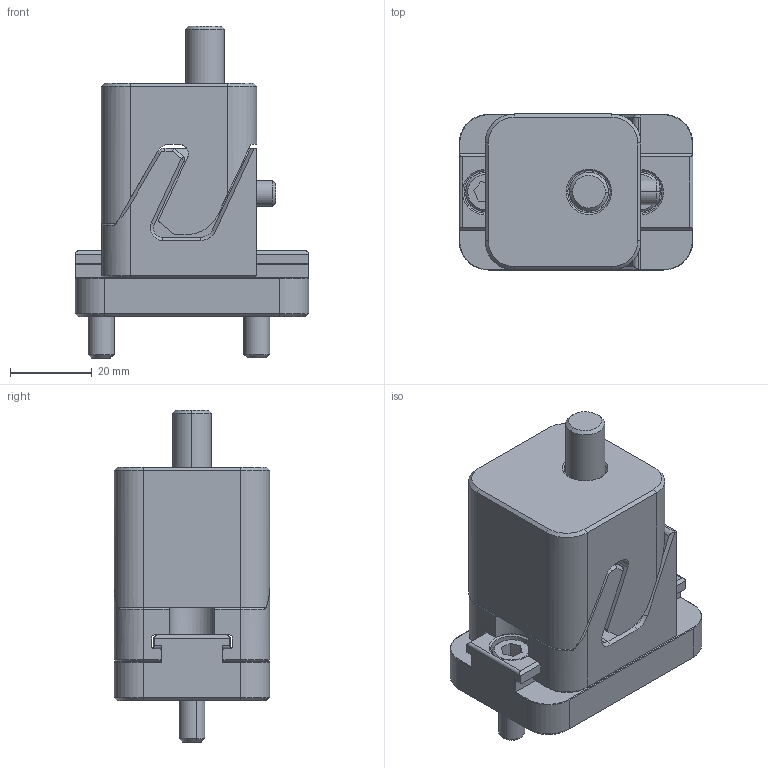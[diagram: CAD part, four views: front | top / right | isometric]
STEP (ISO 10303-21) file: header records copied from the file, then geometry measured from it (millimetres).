
FILE_DESCRIPTION (( 'STEP AP203' ), '1' );
FILE_NAME ('CA-300.STEP', '2011-01-19T19:21:31', ( '' ), ( '' ), 'SwSTEP 2.0', 'SolidWorks 2008', '' );
FILE_SCHEMA (( 'CONFIG_CONTROL_DESIGN' ));
Length unit declared in the file: inch
Products named in the file (13): CA-300; SHCS_3-8_16X3-4; SHCS_1-4_20X7-8; SRT-10_ROLLER; SRT-10_SHSB; CA-300-G_GUIDE; CA-300-S_SLIDE; CA-300-LK1_LOCK; SHCS_1-4_20X3-4; SRT10; srt-10_Body; SRT-10_WAVESPRING; SRT-10_AXLE
Assembly tree (14 placements, depth 3):
  CA-300
    CA-300-LK1_LOCK
    CA-300-S_SLIDE
    SHCS_3-8_16X3-4
    SHCS_1-4_20X7-8
    SHCS_1-4_20X3-4  x2
    SRT10
      SRT-10_ROLLER
      SRT-10_SHSB  x2
      SRT-10_AXLE
      srt-10_Body
      SRT-10_WAVESPRING
    CA-300-G_GUIDE
Bounding box: 57.15 x 38.1 x 81.21 mm (x, y, z)
Volume: 86975.4 mm3; surface area: 30144.5 mm2
Topology: 13 solids, 13 shells, 621 faces, 1572 edges, 985 vertices
Faces by surface type: plane 285, cylinder 191, cone 131, torus 8, bspline 6
Entity records: 19072 total; most frequent: CARTESIAN_POINT 4190, ORIENTED_EDGE 2908, DIRECTION 2704, EDGE_CURVE 1454, AXIS2_PLACEMENT_3D 953, VERTEX_POINT 911, VECTOR 798, LINE 798
